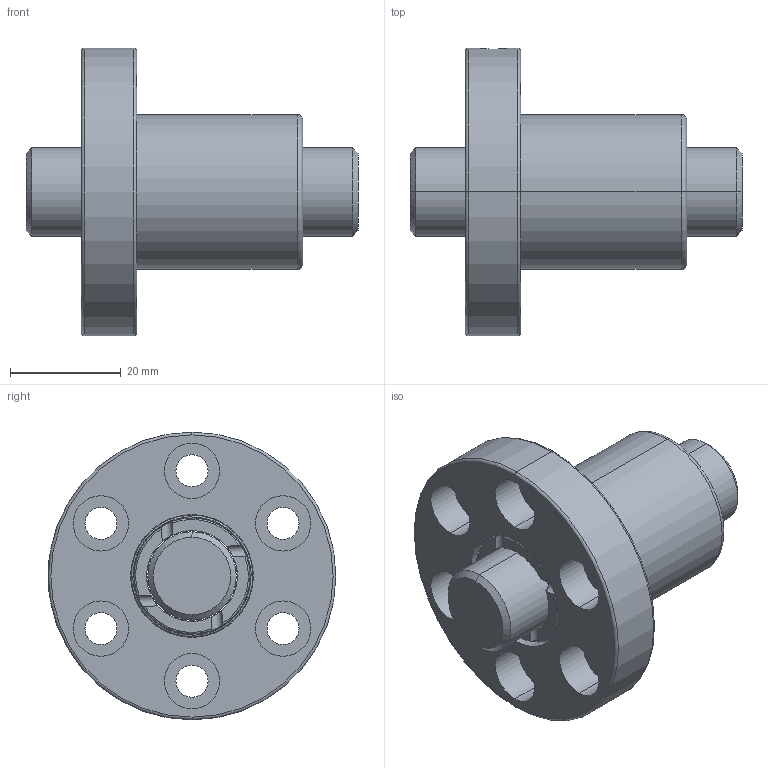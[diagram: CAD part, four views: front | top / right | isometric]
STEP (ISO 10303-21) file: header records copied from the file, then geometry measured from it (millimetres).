
FILE_DESCRIPTION (( 'STEP AP203' ), '1' );
FILE_NAME ('SFZR01604T4N-C.STEP', '2020-06-18T00:52:56', ( '' ), ( '' ), 'SwSTEP 2.0', 'SolidWorks 2013', '' );
FILE_SCHEMA (( 'CONFIG_CONTROL_DESIGN' ));
Length unit declared in the file: millimetre
Products named in the file (1): SFZR01604T4N-C
Bounding box: 60 x 52 x 52 mm (x, y, z)
Volume: 38377 mm3; surface area: 16203.9 mm2
Topology: 2 solids, 2 shells, 122 faces, 292 edges, 184 vertices
Faces by surface type: cylinder 66, torus 26, plane 26, cone 4
Entity records: 4047 total; most frequent: CARTESIAN_POINT 1035, DIRECTION 664, ORIENTED_EDGE 584, AXIS2_PLACEMENT_3D 295, EDGE_CURVE 292, VERTEX_POINT 184, CIRCLE 172, EDGE_LOOP 150
